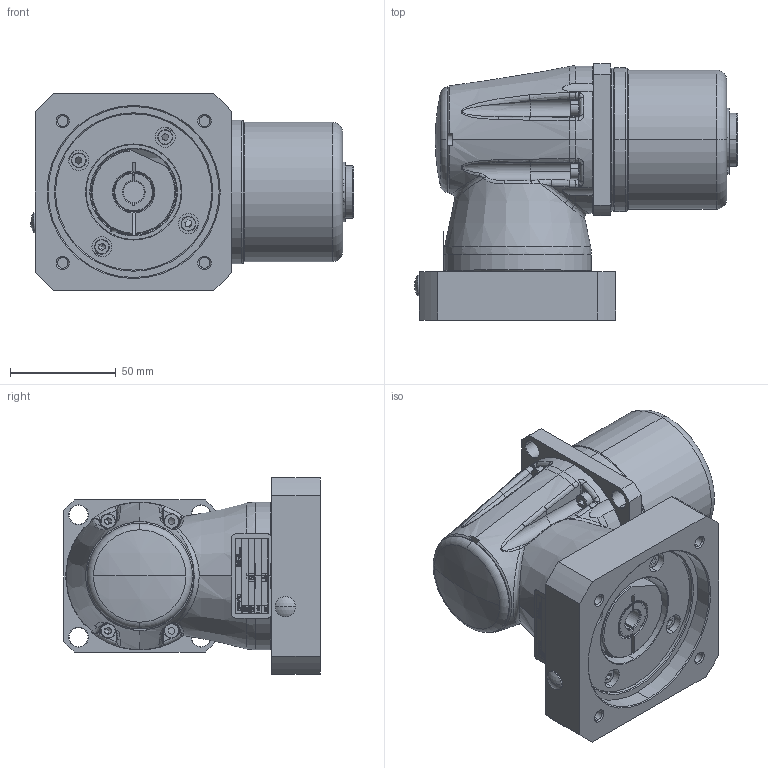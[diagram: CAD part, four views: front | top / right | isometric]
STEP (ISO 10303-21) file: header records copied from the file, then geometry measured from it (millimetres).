
FILE_DESCRIPTION (( 'STEP AP214' ), '1' );
FILE_NAME ('FL-010-0RR-FFF-MMM-S-LL-XXX-BXX-DDCC.STEP', '2019-10-30T15:43:43', ( '' ), ( '' ), 'SwSTEP 2.0', 'SolidWorks 2019', '' );
FILE_SCHEMA (( 'AUTOMOTIVE_DESIGN' ));
Length unit declared in the file: millimetre
Products named in the file (1): FL-010-0RR-FFF-MMM-S-LL-XXX-BXX-DDCC
Bounding box: 153.09 x 121.5 x 93 mm (x, y, z)
Surface area: 83466.6 mm2 (no closed solid volume)
Topology: 0 solids, 73 shells, 547 faces, 2584 edges, 2097 vertices
Faces by surface type: plane 181, cylinder 139, cone 95, bspline 71, torus 57, sphere 4
Entity records: 41909 total; most frequent: CARTESIAN_POINT 17041, ORIENTED_EDGE 3573, DIRECTION 3287, EDGE_CURVE 2578, VERTEX_POINT 2097, VECTOR 1165, LINE 1165, AXIS2_PLACEMENT_3D 1061
